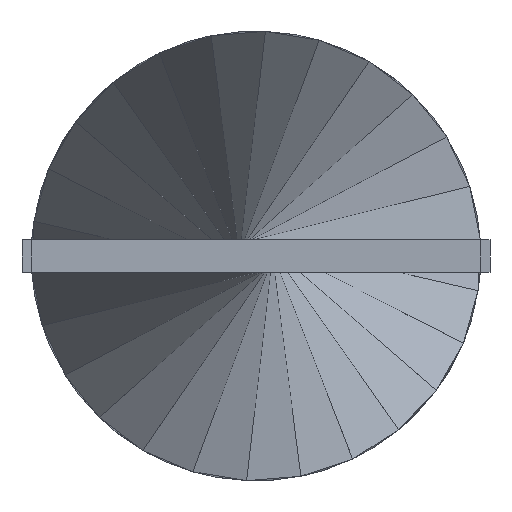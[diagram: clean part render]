
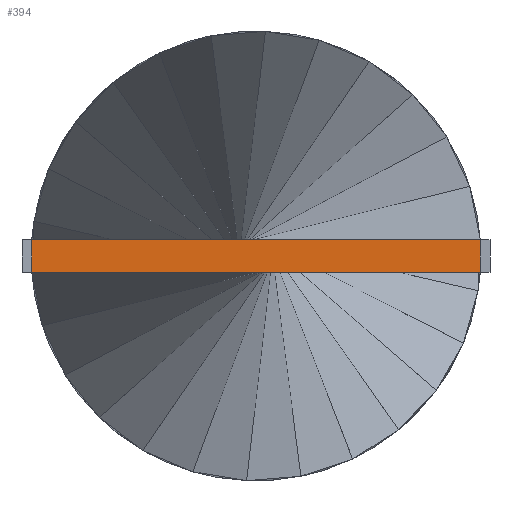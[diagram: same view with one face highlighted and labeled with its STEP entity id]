
A CAD part, front view. The second image highlights one B-rep face of the part: STEP entity #394.
In plain terms, the highlighted planar face has unit normal (0, -1, 0).
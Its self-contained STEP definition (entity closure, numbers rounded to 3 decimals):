
#37 = VECTOR ( 'NONE', #587, 1000. ) ;
#44 = LINE ( 'NONE', #634, #37 ) ;
#109 = CARTESIAN_POINT ( 'NONE',  ( -6.9, 0., -0.5 ) ) ;
#118 = DIRECTION ( 'NONE',  ( 0., 0., 1. ) ) ;
#126 = VECTOR ( 'NONE', #840, 1000. ) ;
#132 = VERTEX_POINT ( 'NONE', #912 ) ;
#145 = LINE ( 'NONE', #758, #126 ) ;
#181 = VECTOR ( 'NONE', #748, 1000. ) ;
#228 = LINE ( 'NONE', #519, #181 ) ;
#333 = VECTOR ( 'NONE', #118, 1000. ) ;
#335 = LINE ( 'NONE', #109, #333 ) ;
#390 = CARTESIAN_POINT ( 'NONE',  ( 6.9, 0., 0.5 ) ) ;
#394 = ADVANCED_FACE ( 'NONE', ( #494 ), #776, .T. ) ;
#494 = FACE_OUTER_BOUND ( 'NONE', #628, .T. ) ;
#519 = CARTESIAN_POINT ( 'NONE',  ( -6.9, 0., 0.5 ) ) ;
#547 = EDGE_CURVE ( 'NONE', #1295, #132, #335, .T. ) ;
#587 = DIRECTION ( 'NONE',  ( 0., 0., 1. ) ) ;
#628 = EDGE_LOOP ( 'NONE', ( #650, #856, #786, #826 ) ) ;
#634 = CARTESIAN_POINT ( 'NONE',  ( 6.9, 0., -0.5 ) ) ;
#650 = ORIENTED_EDGE ( 'NONE', *, *, #1354, .T. ) ;
#728 = CARTESIAN_POINT ( 'NONE',  ( -6.9, 0., -0.5 ) ) ;
#748 = DIRECTION ( 'NONE',  ( 1., 0., 0. ) ) ;
#758 = CARTESIAN_POINT ( 'NONE',  ( -6.9, 0., -0.5 ) ) ;
#776 = PLANE ( 'NONE',  #932 ) ;
#786 = ORIENTED_EDGE ( 'NONE', *, *, #547, .F. ) ;
#806 = CARTESIAN_POINT ( 'NONE',  ( -6.9, 0., -0.5 ) ) ;
#826 = ORIENTED_EDGE ( 'NONE', *, *, #1168, .T. ) ;
#840 = DIRECTION ( 'NONE',  ( 1., 0., 0. ) ) ;
#851 = VERTEX_POINT ( 'NONE', #390 ) ;
#856 = ORIENTED_EDGE ( 'NONE', *, *, #1121, .F. ) ;
#912 = CARTESIAN_POINT ( 'NONE',  ( -6.9, 0., 0.5 ) ) ;
#932 = AXIS2_PLACEMENT_3D ( 'NONE', #728, #1052, #1110 ) ;
#1043 = VERTEX_POINT ( 'NONE', #1173 ) ;
#1052 = DIRECTION ( 'NONE',  ( 0., -1., 0. ) ) ;
#1110 = DIRECTION ( 'NONE',  ( 0., 0., -1. ) ) ;
#1121 = EDGE_CURVE ( 'NONE', #132, #851, #228, .T. ) ;
#1168 = EDGE_CURVE ( 'NONE', #1295, #1043, #145, .T. ) ;
#1173 = CARTESIAN_POINT ( 'NONE',  ( 6.9, 0., -0.5 ) ) ;
#1295 = VERTEX_POINT ( 'NONE', #806 ) ;
#1354 = EDGE_CURVE ( 'NONE', #1043, #851, #44, .T. ) ;
